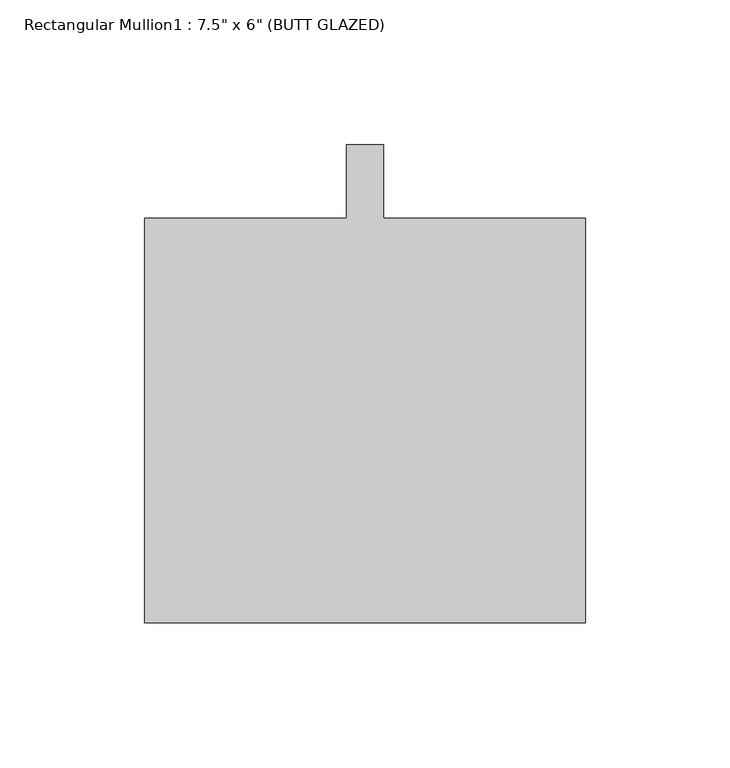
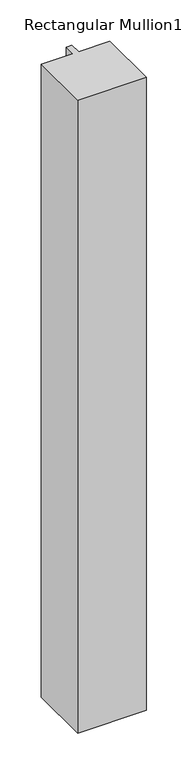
"""IFC4 building model written with IfcOpenShell, lengths in millimetres: member geometry."""

from ifc_helpers import new_model, si_unit, frame, origin, place, context, project, spatial, polyline, outline, extrude, source, transform, mapped, element, save


def member_26b19148(model_context):
    return source(origin(), model_context, "Body", "SweptSolid", [
        extrude(outline(polyline([(76.2, -165.1), (-76.2, -165.1), (-76.2, -25.4), (-6.35, -25.4), (-6.35, 0.0), (6.35, 0.0), (6.35, -25.4), (76.2, -25.4), (76.2, -165.1)])), frame((0.0, 0.0, -1492.25), z_axis=(0.0, 0.0, 1.0), x_axis=(1.0, 0.0, 0.0)), (0.0, 0.0, 1.0), 1492.25),
    ])


if __name__ == "__main__":
    model = new_model("IFC4")
    model_context = context("Model", 3, world=origin())
    ifc_project = project(units=[si_unit("LENGTHUNIT", "METRE", prefix="MILLI")], contexts=[model_context])
    site = spatial("IfcSite", under=ifc_project)
    building = spatial("IfcBuilding", under=site)
    placement = place(None, origin())
    member_shape = member_26b19148(model_context)
    element("IfcMember", 1, ObjectType="Rectangular Mullion1 : 7.5\" x 6\" (BUTT GLAZED)", at=placement, inside=building, context=model_context, shape_type="MappedRepresentation", body=[
        mapped(member_shape, transform((0.0, 0.0, 0.0), x_axis=(1.0, 0.0, 0.0), y_axis=(0.0, 1.0, 0.0), z_axis=(0.0, 0.0, 1.0))),
    ])
    save(model, "model.ifc")
